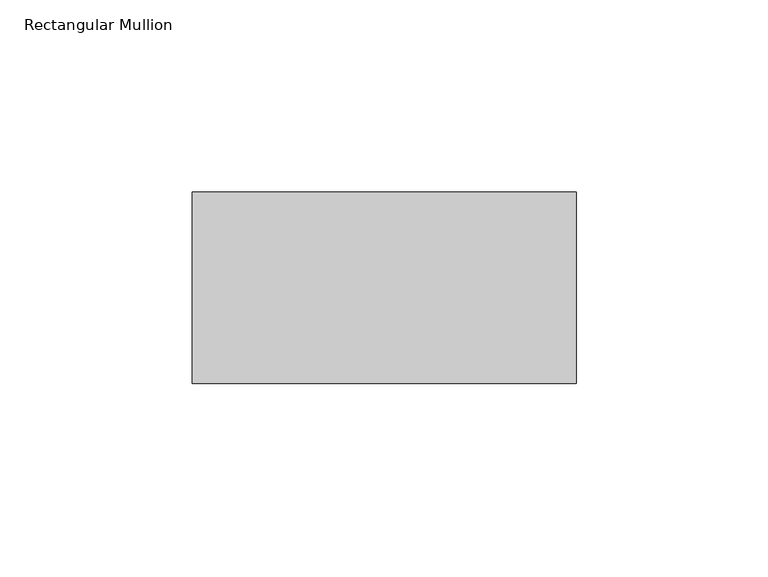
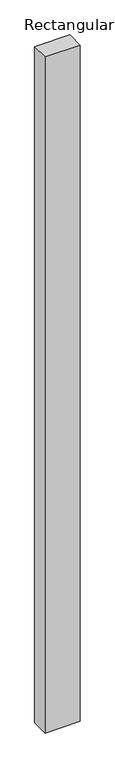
"""IFC4 building model written with IfcOpenShell, lengths in millimetres: member geometry, Rectangular Mullion : Mullion_Curtain Wall_Generic Showcase_50x100mm."""

from ifc_helpers import new_model, si_unit, frame, origin, place, context, project, spatial, polyline, outline, extrude, source, transform, mapped, element, save


def rectangular_mullion_3e4a82b6(model_context):
    return source(origin(), model_context, "Body", "SweptSolid", [
        extrude(outline(polyline([(0.0, 0.0), (0.0, -50.0), (-100.0, -50.0), (-100.0, 0.0), (0.0, 0.0)])), frame((0.0, 0.0, -2025.0), z_axis=(0.0, 0.0, 1.0), x_axis=(1.0, 0.0, 0.0)), (0.0, 0.0, 1.0), 2025.0),
    ])


if __name__ == "__main__":
    model = new_model("IFC4")
    model_context = context("Model", 3, world=origin())
    ifc_project = project(units=[si_unit("LENGTHUNIT", "METRE", prefix="MILLI")], contexts=[model_context])
    site = spatial("IfcSite", under=ifc_project)
    building = spatial("IfcBuilding", under=site)
    placement = place(None, origin())
    rectangular_mullion_shape = rectangular_mullion_3e4a82b6(model_context)
    element("IfcMember", 1, ObjectType="Rectangular Mullion : Mullion_Curtain Wall_Generic Showcase_50x100mm", at=placement, inside=building, context=model_context, shape_type="MappedRepresentation", body=[
        mapped(rectangular_mullion_shape, transform((0.0, 0.0, 0.0), x_axis=(1.0, 0.0, 0.0), y_axis=(0.0, 1.0, 0.0), z_axis=(0.0, 0.0, 1.0))),
    ])
    save(model, "model.ifc")
